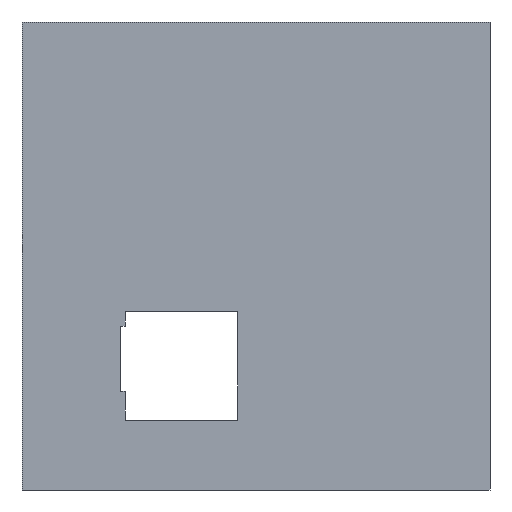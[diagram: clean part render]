
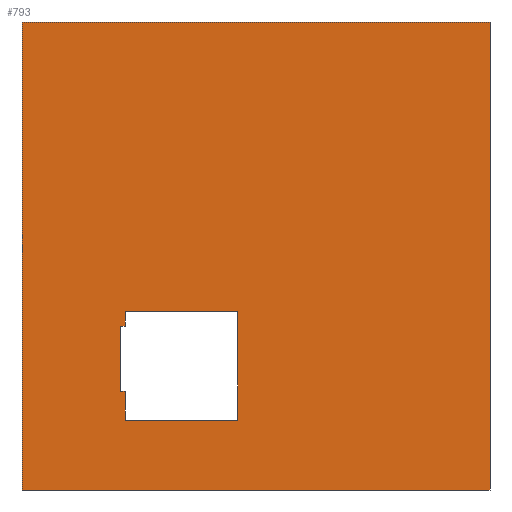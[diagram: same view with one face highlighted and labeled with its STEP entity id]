
A CAD part, front view. The second image highlights one B-rep face of the part: STEP entity #793.
In plain terms, the highlighted planar face has unit normal (0, -1, 0).
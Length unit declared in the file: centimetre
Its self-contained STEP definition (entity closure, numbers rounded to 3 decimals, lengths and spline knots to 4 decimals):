
#3 = AXIS2_PLACEMENT_3D ( 'NONE', #38, #275, #621 ) ;
#6 = VECTOR ( 'NONE', #469, 100. ) ;
#7 = VERTEX_POINT ( 'NONE', #819 ) ;
#14 = EDGE_CURVE ( 'NONE', #37, #560, #822, .T. ) ;
#35 = CARTESIAN_POINT ( 'NONE',  ( 0., 0., 0. ) ) ;
#37 = VERTEX_POINT ( 'NONE', #284 ) ;
#38 = CARTESIAN_POINT ( 'NONE',  ( 0., 0., 1000. ) ) ;
#40 = LINE ( 'NONE', #811, #6 ) ;
#54 = EDGE_CURVE ( 'NONE', #237, #228, #824, .T. ) ;
#56 = ORIENTED_EDGE ( 'NONE', *, *, #516, .F. ) ;
#70 = CARTESIAN_POINT ( 'NONE',  ( 460.5357, 0., 148.9864 ) ) ;
#85 = CARTESIAN_POINT ( 'NONE',  ( 1000., 0., 1000. ) ) ;
#97 = VECTOR ( 'NONE', #189, 100. ) ;
#98 = LINE ( 'NONE', #733, #551 ) ;
#100 = EDGE_CURVE ( 'NONE', #7, #461, #643, .T. ) ;
#111 = DIRECTION ( 'NONE',  ( 1., 0., 0. ) ) ;
#116 = FACE_BOUND ( 'NONE', #476, .T. ) ;
#131 = CARTESIAN_POINT ( 'NONE',  ( 0., 0., 1000. ) ) ;
#134 = DIRECTION ( 'NONE',  ( 1., 0., 0. ) ) ;
#147 = CARTESIAN_POINT ( 'NONE',  ( 220.3211, 0., 148.9864 ) ) ;
#153 = CARTESIAN_POINT ( 'NONE',  ( 220.3211, 0., 210.5037 ) ) ;
#154 = CARTESIAN_POINT ( 'NONE',  ( 1000., 0., 1000. ) ) ;
#156 = EDGE_CURVE ( 'NONE', #228, #7, #185, .T. ) ;
#164 = PLANE ( 'NONE',  #3 ) ;
#173 = CARTESIAN_POINT ( 'NONE',  ( 220.3211, 0., 148.9864 ) ) ;
#176 = ORIENTED_EDGE ( 'NONE', *, *, #54, .F. ) ;
#184 = VECTOR ( 'NONE', #618, 100. ) ;
#185 = LINE ( 'NONE', #147, #97 ) ;
#189 = DIRECTION ( 'NONE',  ( 1., 0., 0. ) ) ;
#200 = ORIENTED_EDGE ( 'NONE', *, *, #249, .F. ) ;
#206 = ORIENTED_EDGE ( 'NONE', *, *, #232, .T. ) ;
#207 = VECTOR ( 'NONE', #267, 100. ) ;
#219 = FACE_OUTER_BOUND ( 'NONE', #378, .T. ) ;
#222 = CARTESIAN_POINT ( 'NONE',  ( 211.0371, 0., 210.5037 ) ) ;
#228 = VERTEX_POINT ( 'NONE', #454 ) ;
#232 = EDGE_CURVE ( 'NONE', #339, #329, #592, .T. ) ;
#237 = VERTEX_POINT ( 'NONE', #153 ) ;
#238 = VECTOR ( 'NONE', #111, 100. ) ;
#247 = DIRECTION ( 'NONE',  ( 0., 0., -1. ) ) ;
#249 = EDGE_CURVE ( 'NONE', #461, #816, #40, .T. ) ;
#267 = DIRECTION ( 'NONE',  ( 0., 0., -1. ) ) ;
#275 = DIRECTION ( 'NONE',  ( 0., 1., 0. ) ) ;
#284 = CARTESIAN_POINT ( 'NONE',  ( 211.0371, 0., 349.8144 ) ) ;
#294 = EDGE_CURVE ( 'NONE', #560, #237, #98, .T. ) ;
#296 = VERTEX_POINT ( 'NONE', #375 ) ;
#303 = CARTESIAN_POINT ( 'NONE',  ( 460.5357, 0., 381.6172 ) ) ;
#323 = LINE ( 'NONE', #522, #539 ) ;
#324 = ORIENTED_EDGE ( 'NONE', *, *, #673, .F. ) ;
#328 = LINE ( 'NONE', #85, #627 ) ;
#329 = VERTEX_POINT ( 'NONE', #35 ) ;
#339 = VERTEX_POINT ( 'NONE', #580 ) ;
#351 = ORIENTED_EDGE ( 'NONE', *, *, #786, .F. ) ;
#357 = DIRECTION ( 'NONE',  ( 0., 0., -1. ) ) ;
#375 = CARTESIAN_POINT ( 'NONE',  ( 220.3211, 0., 349.8144 ) ) ;
#378 = EDGE_LOOP ( 'NONE', ( #508, #56, #324, #206 ) ) ;
#454 = CARTESIAN_POINT ( 'NONE',  ( 220.3211, 0., 148.9864 ) ) ;
#461 = VERTEX_POINT ( 'NONE', #303 ) ;
#469 = DIRECTION ( 'NONE',  ( -1., 0., 0. ) ) ;
#476 = EDGE_LOOP ( 'NONE', ( #657, #577, #351, #200, #718, #484, #176, #720 ) ) ;
#484 = ORIENTED_EDGE ( 'NONE', *, *, #156, .F. ) ;
#496 = DIRECTION ( 'NONE',  ( 0., 0., -1. ) ) ;
#508 = ORIENTED_EDGE ( 'NONE', *, *, #706, .T. ) ;
#516 = EDGE_CURVE ( 'NONE', #672, #655, #328, .T. ) ;
#518 = VECTOR ( 'NONE', #496, 100. ) ;
#522 = CARTESIAN_POINT ( 'NONE',  ( 211.0371, 0., 349.8144 ) ) ;
#531 = LINE ( 'NONE', #688, #238 ) ;
#539 = VECTOR ( 'NONE', #792, 100. ) ;
#547 = LINE ( 'NONE', #173, #723 ) ;
#551 = VECTOR ( 'NONE', #134, 100. ) ;
#560 = VERTEX_POINT ( 'NONE', #725 ) ;
#566 = CARTESIAN_POINT ( 'NONE',  ( 220.3211, 0., 148.9864 ) ) ;
#577 = ORIENTED_EDGE ( 'NONE', *, *, #734, .F. ) ;
#580 = CARTESIAN_POINT ( 'NONE',  ( 0., 0., 1000. ) ) ;
#592 = LINE ( 'NONE', #131, #207 ) ;
#611 = DIRECTION ( 'NONE',  ( 0., 0., -1. ) ) ;
#616 = VECTOR ( 'NONE', #628, 100. ) ;
#618 = DIRECTION ( 'NONE',  ( 1., 0., 0. ) ) ;
#621 = DIRECTION ( 'NONE',  ( 0., 0., 1. ) ) ;
#627 = VECTOR ( 'NONE', #247, 100. ) ;
#628 = DIRECTION ( 'NONE',  ( 0., 0., 1. ) ) ;
#643 = LINE ( 'NONE', #70, #616 ) ;
#655 = VERTEX_POINT ( 'NONE', #741 ) ;
#657 = ORIENTED_EDGE ( 'NONE', *, *, #14, .F. ) ;
#672 = VERTEX_POINT ( 'NONE', #154 ) ;
#673 = EDGE_CURVE ( 'NONE', #339, #672, #735, .T. ) ;
#688 = CARTESIAN_POINT ( 'NONE',  ( 0., 0., 0. ) ) ;
#694 = CARTESIAN_POINT ( 'NONE',  ( 220.3211, 0., 381.6172 ) ) ;
#706 = EDGE_CURVE ( 'NONE', #329, #655, #531, .T. ) ;
#718 = ORIENTED_EDGE ( 'NONE', *, *, #100, .F. ) ;
#720 = ORIENTED_EDGE ( 'NONE', *, *, #294, .F. ) ;
#723 = VECTOR ( 'NONE', #357, 100. ) ;
#725 = CARTESIAN_POINT ( 'NONE',  ( 211.0371, 0., 210.5037 ) ) ;
#733 = CARTESIAN_POINT ( 'NONE',  ( 211.0371, 0., 210.5037 ) ) ;
#734 = EDGE_CURVE ( 'NONE', #296, #37, #323, .T. ) ;
#735 = LINE ( 'NONE', #812, #184 ) ;
#739 = VECTOR ( 'NONE', #611, 100. ) ;
#741 = CARTESIAN_POINT ( 'NONE',  ( 1000., 0., 0. ) ) ;
#786 = EDGE_CURVE ( 'NONE', #816, #296, #547, .T. ) ;
#792 = DIRECTION ( 'NONE',  ( -1., 0., 0. ) ) ;
#793 = ADVANCED_FACE ( 'NONE', ( #116, #219 ), #164, .F. ) ;
#811 = CARTESIAN_POINT ( 'NONE',  ( 220.3211, 0., 381.6172 ) ) ;
#812 = CARTESIAN_POINT ( 'NONE',  ( 0., 0., 1000. ) ) ;
#816 = VERTEX_POINT ( 'NONE', #694 ) ;
#819 = CARTESIAN_POINT ( 'NONE',  ( 460.5357, 0., 148.9864 ) ) ;
#822 = LINE ( 'NONE', #222, #739 ) ;
#824 = LINE ( 'NONE', #566, #518 ) ;
